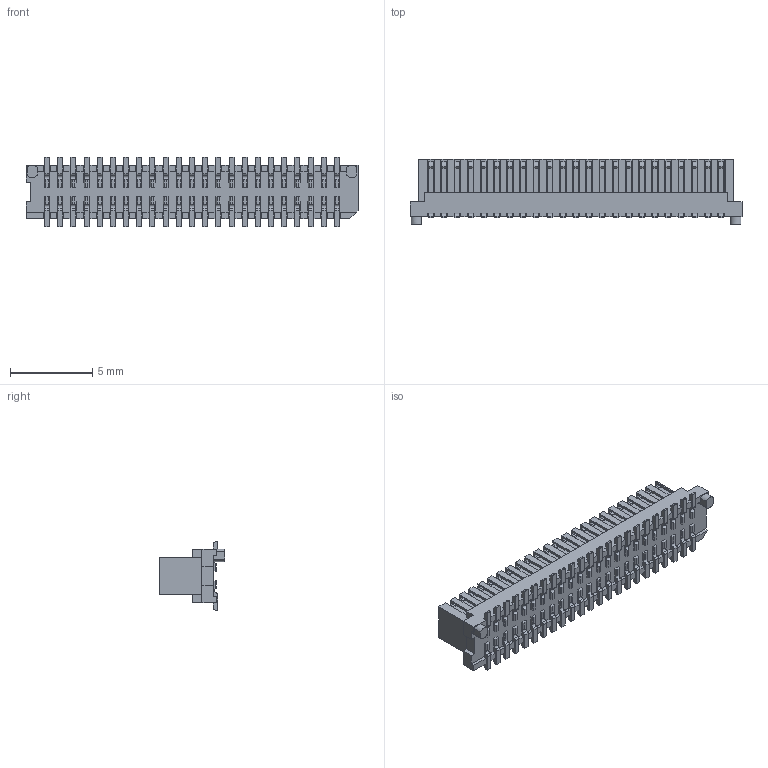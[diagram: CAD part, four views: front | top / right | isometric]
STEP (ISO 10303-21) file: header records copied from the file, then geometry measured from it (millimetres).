
FILE_DESCRIPTION (( 'STEP AP203' ), '1' );
FILE_NAME ('HC-PBB08-1-46-M-S-H3.55-XX-R-P-06 (BTB0.8 单槽 公座 立式侧插 座高3.55mm 编带 带柱)-HCTL.STEP', '2025-12-09T06:56:27', ( '' ), ( '' ), 'SwSTEP 2.0', 'SolidWorks 2025', '' );
FILE_SCHEMA (( 'CONFIG_CONTROL_DESIGN' ));
Length unit declared in the file: millimetre
Products named in the file (1): HC-PBB08-1-46-M-S-H3.55-XX-R-P-06 (BTB0.8 单槽 公座 立式侧插 座高3.55mm 编带 带柱)-HCTL
Bounding box: 20.15 x 4 x 4.21 mm (x, y, z)
Volume: 162.7 mm3; surface area: 708.1 mm2
Topology: 1 solids, 1 shells, 1515 faces, 4997 edges, 3300 vertices
Faces by surface type: plane 1189, cylinder 326
Entity records: 54438 total; most frequent: CARTESIAN_POINT 10089, ORIENTED_EDGE 9994, DIRECTION 8591, EDGE_CURVE 4997, LINE 4251, VECTOR 4251, VERTEX_POINT 3300, AXIS2_PLACEMENT_3D 2170
